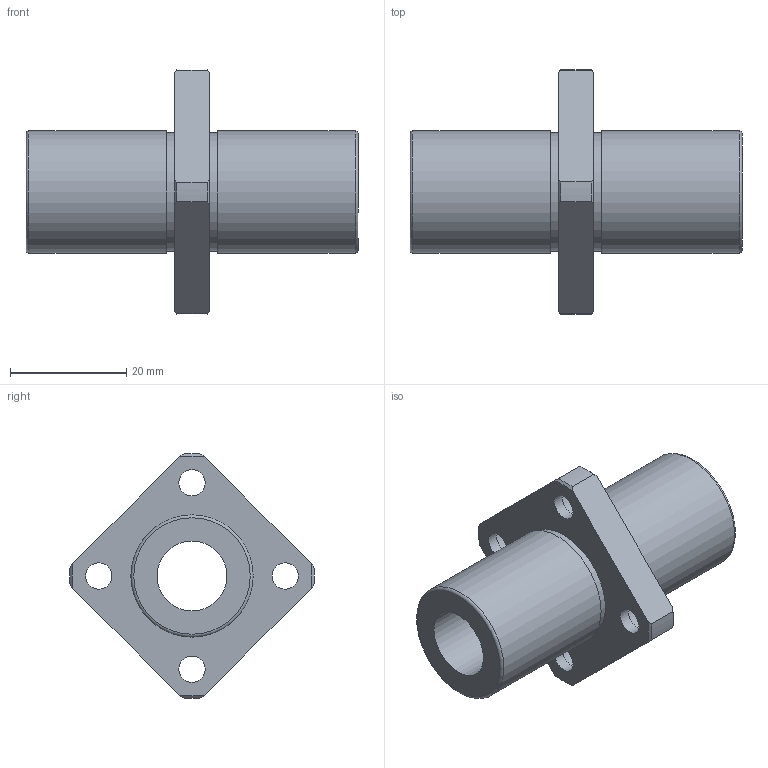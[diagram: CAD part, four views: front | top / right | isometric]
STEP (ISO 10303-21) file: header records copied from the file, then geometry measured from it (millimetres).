
FILE_DESCRIPTION(('STEP AP203'),'1');
FILE_NAME('//192.168.1.1/share/s-4 技術開発/s-4-4_CAD/s-4-4-3_見直し済み/002 修正済み/NFCS-VL/NFCS-VL_TOP/NFCS-12VLUU.step','2022-03-08T04:36:38',(' '),(' '),'Spatial InterOp 3D',' ',' ');
FILE_SCHEMA(('CONFIG_CONTROL_DESIGN'));
Length unit declared in the file: millimetre
Products named in the file (1): 1
Bounding box: 57 x 41.98 x 41.98 mm (x, y, z)
Volume: 16378.2 mm3; surface area: 8462.9 mm2
Topology: 1 solids, 1 shells, 41 faces, 97 edges, 66 vertices
Faces by surface type: cylinder 17, plane 14, cone 8, torus 2
Full cylindrical faces by diameter (mm): 4.5 x4, 7.5 x4, 12 x1, 20.3 x2, 21 x2
Entity records: 1158 total; most frequent: CARTESIAN_POINT 226, DIRECTION 188, ORIENTED_EDGE 152, AXIS2_PLACEMENT_3D 86, EDGE_CURVE 76, EDGE_LOOP 74, VERTEX_POINT 60, FACE_OUTER_BOUND 56
